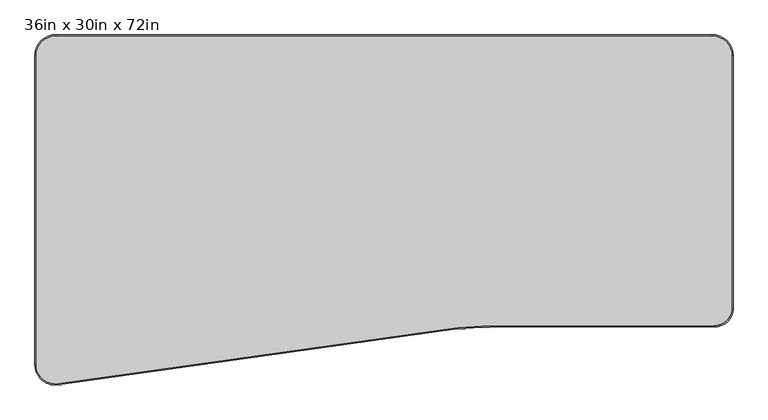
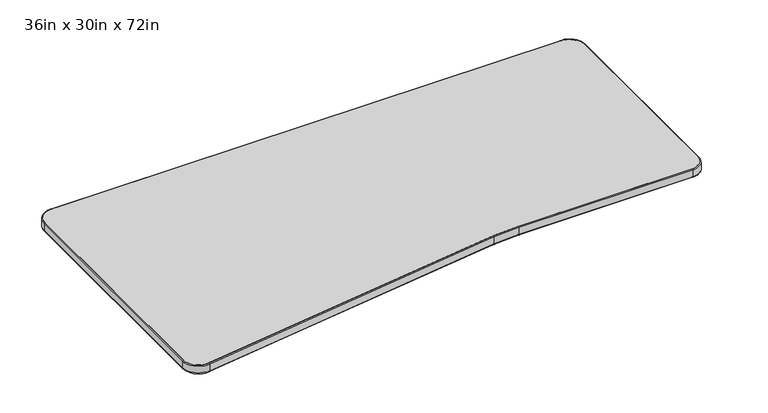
"""IFC4 building model written with IfcOpenShell, lengths in millimetres: furniture geometry, Steelcase - Answer Solution - Universal Table - Transition - Left : 36in x 30in x 72in."""

from ifc_helpers import new_model, si_unit, point, frame, frame_2d, origin, place, context, project, spatial, polyline, circle_curve, ellipse_curve, trimmed, segment, composite_curve, outline, extrude, source, transform, mapped, element, save
from ifc_brep_helpers import plane_surface, cylinder_surface, revolved_surface, advanced_brep


def furniture_36in_x_30in_x_72in_42ab280b(model_context):
    return source(origin(), model_context, "Body", "SolidModel", [
        extrude(outline(composite_curve([segment(polyline([(53.8479244, -3.0479999), (1768.6019516, -3.0479999)]), True, "CONTINUOUS"), segment(trimmed(circle_curve(frame_2d((1768.6019516, -53.8479999)), 50.8), [point((1768.6019516, -3.0479999))], [point((1819.4019516, -53.8479999))], False, "CARTESIAN"), True, "CONTINUOUS"), segment(polyline([(1819.4019516, -53.8479999), (1819.4019516, -711.0676965)]), True, "CONTINUOUS"), segment(trimmed(circle_curve(frame_2d((1771.5176452, -711.0676965)), 47.8843065), [point((1819.4019516, -711.0676965))], [point((1771.5176452, -758.9520029))], False, "CARTESIAN"), True, "CONTINUOUS"), segment(polyline([(1771.5176452, -758.9520029), (1187.1747338, -758.9520029)]), True, "CONTINUOUS"), segment(trimmed(circle_curve(frame_2d((1187.1747338, -1446.1704002)), 687.2183973), [point((1187.1747338, -758.9520029))], [point((1103.6043966, -764.0522841))], True, "CARTESIAN"), True, "CONTINUOUS"), segment(polyline([(1103.6043966, -764.0522841), (60.025543, -910.5787488)]), True, "CONTINUOUS"), segment(trimmed(circle_curve(frame_2d((53.8479244, -860.1557677)), 50.8), [point((60.025543, -910.5787488))], [point((3.0479244, -860.1557677))], False, "CARTESIAN"), True, "CONTINUOUS"), segment(polyline([(3.0479244, -860.1557677), (3.0479244, -53.8479999)]), True, "CONTINUOUS"), segment(trimmed(circle_curve(frame_2d((53.8479244, -53.8479999)), 50.8), [point((3.0479244, -53.8479999))], [point((53.8479244, -3.0479999))], False, "CARTESIAN"), True, "CONTINUOUS")], self_intersect=False)), frame((0.0, 0.0, 668.274), z_axis=(0.0, 0.0, 1.0), x_axis=(1.0, 0.0, 0.0)), (0.0, 0.0, 1.0), 30.0481659),
        advanced_brep(
        [(-7.55e-05, -53.8479999, 671.3219999), (53.8479244, 0.0, 671.3219999), (53.8479244, -3.0479999, 668.274), (3.0479244, -53.8479999, 668.274), (-7.55e-05, -53.8479999, 695.274166), (53.8479244, 0.0, 695.274166), (3.0479244, -53.8479999, 698.3221659), (53.8479244, -3.0479999, 698.3221659), (3.0479244, -860.1557677, 668.274), (-7.55e-05, -860.1557677, 671.3219999), (-7.55e-05, -860.1557677, 695.274166), (3.0479244, -860.1557677, 698.3221659), (60.3962001, -913.6041276, 671.3219999), (60.025543, -910.5787488, 668.274), (60.3962001, -913.6041276, 695.274166), (60.025543, -910.5787488, 698.3221659), (1101.6804802, -764.2879945, 668.274), (1102.1043834, -767.3063732, 671.3219999), (1102.1043834, -767.3063732, 695.274166), (1101.6804802, -764.2879945, 698.3221659), (1189.1130356, -762.0000028, 671.3219999), (1189.1130356, -758.9520029, 668.274), (1189.1130356, -762.0000028, 695.274166), (1189.1130356, -758.9520029, 698.3221659), (1774.9519516, -758.9520029, 668.274), (1774.9519516, -762.0000028, 671.3219999), (1774.9519516, -762.0000028, 695.274166), (1774.9519516, -758.9520029, 698.3221659), (1822.4499516, -714.5020029, 671.3219999), (1819.4019516, -714.5020029, 668.274), (1822.4499516, -714.5020029, 695.274166), (1819.4019516, -714.5020029, 698.3221659), (1819.4019516, -53.8479999, 668.274), (1822.4499516, -53.8479999, 671.3219999), (1822.4499516, -53.8479999, 695.274166), (1819.4019516, -53.8479999, 698.3221659), (1768.6019516, 0.0, 671.3219999), (1768.6019516, -3.0479999, 668.274), (1768.6019516, 0.0, 695.274166), (1768.6019516, -3.0479999, 698.3221659)],
        [
            (0, 1, circle_curve(frame((53.8479244, -53.8479999, 671.3219999), z_axis=(0.0, 0.0, -1.0), x_axis=(0.0, 1.0, 0.0)), 53.8479999)),
            (1, 2, circle_curve(frame((53.8479244, -3.0479999, 671.3219999), z_axis=(-1.0, 0.0, 0.0), x_axis=(0.0, -1.0, 0.0)), 3.0479999)),
            (2, 3, circle_curve(frame((53.8479244, -53.8479999, 668.274), z_axis=(0.0, 0.0, 1.0), x_axis=(0.0, 1.0, 0.0)), 50.8)),
            (3, 0, circle_curve(frame((3.0479244, -53.8479999, 671.3219999), z_axis=(0.0, 1.0, 0.0), x_axis=(1.0, 0.0, 0.0)), 3.0479999)),
            (4, 5, circle_curve(frame((53.8479244, -53.8479999, 695.274166), z_axis=(0.0, 0.0, -1.0), x_axis=(0.0, 1.0, 0.0)), 53.8479999)),
            (5, 1),
            (0, 4),
            (6, 7, circle_curve(frame((53.8479244, -53.8479999, 698.3221659), z_axis=(0.0, 0.0, -1.0), x_axis=(0.0, 1.0, 0.0)), 50.8)),
            (7, 5, circle_curve(frame((53.8479244, -3.0479999, 695.274166), z_axis=(-1.0, 0.0, 0.0), x_axis=(0.0, -1.0, 0.0)), 3.0479999)),
            (4, 6, circle_curve(frame((3.0479244, -53.8479999, 695.274166), z_axis=(0.0, 1.0, 0.0), x_axis=(1.0, 0.0, 0.0)), 3.0479999)),
            (2, 7),
            (6, 3),
            (3, 8),
            (8, 9, circle_curve(frame((3.0479244, -860.1557677, 671.3219999), z_axis=(0.0, 1.0, 0.0), x_axis=(1.0, 0.0, 0.0)), 3.0479999)),
            (9, 0),
            (9, 10),
            (10, 4),
            (10, 11, circle_curve(frame((3.0479244, -860.1557677, 695.274166), z_axis=(0.0, 1.0, 0.0), x_axis=(1.0, 0.0, 0.0)), 3.0479999)),
            (11, 6),
            (11, 8),
            (12, 9, circle_curve(frame((53.8479244, -860.1557677, 671.3219999), z_axis=(0.0, 0.0, -1.0), x_axis=(-1.0, 0.0, 0.0)), 53.8479999)),
            (8, 13, circle_curve(frame((53.8479244, -860.1557677, 668.274), z_axis=(0.0, 0.0, 1.0), x_axis=(-1.0, 0.0, 0.0)), 50.8)),
            (13, 12, circle_curve(frame((60.025543, -910.5787488, 671.3219999), z_axis=(-0.9925783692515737, -0.12160666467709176, 0.0), x_axis=(-0.12160666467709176, 0.9925783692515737, 0.0)), 3.0479999)),
            (14, 10, circle_curve(frame((53.8479244, -860.1557677, 695.274166), z_axis=(0.0, 0.0, -1.0), x_axis=(-1.0, 0.0, 0.0)), 53.8479999)),
            (12, 14),
            (15, 11, circle_curve(frame((53.8479244, -860.1557677, 698.3221659), z_axis=(0.0, 0.0, -1.0), x_axis=(-1.0, 0.0, 0.0)), 50.8)),
            (14, 15, circle_curve(frame((60.025543, -910.5787488, 695.274166), z_axis=(-0.9925783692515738, -0.12160666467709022, 0.0), x_axis=(-0.12160666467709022, 0.9925783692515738, 0.0)), 3.0479999)),
            (15, 13),
            (13, 16),
            (16, 17, circle_curve(frame((1101.6804802, -764.2879945, 671.3219999), z_axis=(-0.9902817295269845, -0.1390758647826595, 0.0), x_axis=(-0.1390758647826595, 0.9902817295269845, 0.0)), 3.0479999)),
            (17, 12),
            (17, 18),
            (18, 14),
            (18, 19, circle_curve(frame((1101.6804802, -764.2879945, 695.274166), z_axis=(-0.9902817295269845, -0.1390758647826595, 0.0), x_axis=(-0.1390758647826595, 0.9902817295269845, 0.0)), 3.0479999)),
            (19, 15),
            (19, 16),
            (20, 17, circle_curve(frame((1189.1130356, -1477.9303219, 671.3219999), z_axis=(0.0, 0.0, 1.0), x_axis=(-0.12160666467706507, 0.9925783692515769, 0.0)), 715.9303191)),
            (16, 21, circle_curve(frame((1189.1130356, -1477.9303219, 668.274), z_axis=(0.0, 0.0, -1.0), x_axis=(-0.12160666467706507, 0.9925783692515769, 0.0)), 718.978319)),
            (21, 20, circle_curve(frame((1189.1130356, -758.9520029, 671.3219999), z_axis=(-1.0, 0.0, 0.0), x_axis=(0.0, 1.0, 0.0)), 3.0479999)),
            (22, 18, circle_curve(frame((1189.1130356, -1477.9303219, 695.274166), z_axis=(0.0, 0.0, 1.0), x_axis=(-0.12160666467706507, 0.9925783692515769, 0.0)), 715.9303191)),
            (20, 22),
            (23, 19, circle_curve(frame((1189.1130356, -1477.9303219, 698.3221659), z_axis=(0.0, 0.0, 1.0), x_axis=(-0.12160666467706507, 0.9925783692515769, 0.0)), 718.978319)),
            (22, 23, circle_curve(frame((1189.1130356, -758.9520029, 695.274166), z_axis=(-1.0, 0.0, 0.0), x_axis=(0.0, 1.0, 0.0)), 3.0479999)),
            (23, 21),
            (21, 24),
            (24, 25, circle_curve(frame((1774.9519516, -758.9520029, 671.3219999), z_axis=(-1.0, 0.0, 0.0), x_axis=(0.0, 1.0, 0.0)), 3.0479999)),
            (25, 20),
            (25, 26),
            (26, 22),
            (26, 27, circle_curve(frame((1774.9519516, -758.9520029, 695.274166), z_axis=(-1.0, 0.0, 0.0), x_axis=(0.0, 1.0, 0.0)), 3.0479999)),
            (27, 23),
            (27, 24),
            (28, 25, circle_curve(frame((1774.9519516, -714.5020029, 671.3219999), z_axis=(0.0, 0.0, -1.0), x_axis=(0.0, -1.0, 0.0)), 47.4979999)),
            (24, 29, circle_curve(frame((1774.9519516, -714.5020029, 668.274), z_axis=(0.0, 0.0, 1.0), x_axis=(0.0, -1.0, 0.0)), 44.45)),
            (29, 28, circle_curve(frame((1819.4019516, -714.5020029, 671.3219999), z_axis=(0.0, -1.0, 0.0), x_axis=(-1.0, 0.0, 0.0)), 3.0479999)),
            (30, 26, circle_curve(frame((1774.9519516, -714.5020029, 695.274166), z_axis=(0.0, 0.0, -1.0), x_axis=(0.0, -1.0, 0.0)), 47.4979999)),
            (28, 30),
            (31, 27, circle_curve(frame((1774.9519516, -714.5020029, 698.3221659), z_axis=(0.0, 0.0, -1.0), x_axis=(0.0, -1.0, 0.0)), 44.45)),
            (30, 31, circle_curve(frame((1819.4019516, -714.5020029, 695.274166), z_axis=(0.0, -1.0, 0.0), x_axis=(-1.0, 0.0, 0.0)), 3.0479999)),
            (31, 29),
            (29, 32),
            (32, 33, circle_curve(frame((1819.4019516, -53.8479999, 671.3219999), z_axis=(0.0, -1.0, 0.0), x_axis=(-1.0, 0.0, 0.0)), 3.0479999)),
            (33, 28),
            (33, 34),
            (34, 30),
            (34, 35, circle_curve(frame((1819.4019516, -53.8479999, 695.274166), z_axis=(0.0, -1.0, 0.0), x_axis=(-1.0, 0.0, 0.0)), 3.0479999)),
            (35, 31),
            (35, 32),
            (36, 33, circle_curve(frame((1768.6019516, -53.8479999, 671.3219999), z_axis=(0.0, 0.0, -1.0), x_axis=(1.0, 0.0, 0.0)), 53.8479999)),
            (32, 37, circle_curve(frame((1768.6019516, -53.8479999, 668.274), z_axis=(0.0, 0.0, 1.0), x_axis=(1.0, 0.0, 0.0)), 50.8)),
            (37, 36, circle_curve(frame((1768.6019516, -3.0479999, 671.3219999), z_axis=(1.0, 0.0, 0.0), x_axis=(0.0, -1.0, 0.0)), 3.0479999)),
            (38, 34, circle_curve(frame((1768.6019516, -53.8479999, 695.274166), z_axis=(0.0, 0.0, -1.0), x_axis=(1.0, 0.0, 0.0)), 53.8479999)),
            (36, 38),
            (39, 35, circle_curve(frame((1768.6019516, -53.8479999, 698.3221659), z_axis=(0.0, 0.0, -1.0), x_axis=(1.0, 0.0, 0.0)), 50.8)),
            (38, 39, circle_curve(frame((1768.6019516, -3.0479999, 695.274166), z_axis=(1.0, 0.0, 0.0), x_axis=(0.0, -1.0, 0.0)), 3.0479999)),
            (39, 37),
            (37, 2),
            (1, 36),
            (5, 38),
            (7, 39),
        ],
        [
            revolved_surface(trimmed(ellipse_curve(frame((53.8479244, -3.0479999, 671.3219999), z_axis=(1.0, 0.0, 0.0), x_axis=(0.0, -1.0, 0.0)), 3.0479999, 3.0479999), [point((53.8479244, -3.0479999, 668.274))], [point((53.8479244, 0.0, 671.3219999))], True, "CARTESIAN"), (53.8479244, -53.8479999, 0.0), (0.0, 0.0, 1.0)),
            cylinder_surface(frame((53.8479244, -53.8479999, 0.0), z_axis=(0.0, 0.0, 1.0), x_axis=(0.0, 1.0, 0.0)), 53.8479999),
            revolved_surface(trimmed(ellipse_curve(frame((53.8479244, -3.0479999, 695.274166), z_axis=(1.0, 0.0, 0.0), x_axis=(0.0, -1.0, 0.0)), 3.0479999, 3.0479999), [point((53.8479244, 0.0, 695.274166))], [point((53.8479244, -3.0479999, 698.3221659))], True, "CARTESIAN"), (53.8479244, -53.8479999, 0.0), (0.0, 0.0, 1.0)),
            revolved_surface(polyline([(53.8479244, -3.0479999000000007, 698.3221659), (53.8479244, -3.0479999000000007, 668.274)]), (53.8479244, -53.8479999, 0.0), (0.0, 0.0, 1.0)),
            cylinder_surface(frame((3.0479244, -53.8479999, 671.3219999), z_axis=(0.0, 1.0, 0.0), x_axis=(1.0, 0.0, 0.0)), 3.0479999),
            plane_surface(frame((-7.55e-05, -53.8479999, 671.3219999), z_axis=(-1.0, 0.0, 0.0), x_axis=(0.0, -1.0, 0.0))),
            cylinder_surface(frame((3.0479244, -53.8479999, 695.274166), z_axis=(0.0, 1.0, 0.0), x_axis=(1.0, 0.0, 0.0)), 3.0479999),
            plane_surface(frame((3.0479244, -53.8479999, 698.3221659), z_axis=(1.0, 0.0, 0.0), x_axis=(0.0, -1.0, 0.0))),
            revolved_surface(trimmed(ellipse_curve(frame((3.0479244, -860.1557677, 671.3219999), z_axis=(0.0, 1.0, 0.0), x_axis=(1.0, 0.0, 0.0)), 3.0479999, 3.0479999), [point((3.0479244, -860.1557677, 668.274))], [point((-7.55e-05, -860.1557677, 671.3219999))], True, "CARTESIAN"), (53.8479244, -860.1557677, 0.0), (0.0, 0.0, 1.0)),
            cylinder_surface(frame((53.8479244, -860.1557677, 0.0), z_axis=(0.0, 0.0, 1.0), x_axis=(-1.0, 0.0, 0.0)), 53.8479999),
            revolved_surface(trimmed(ellipse_curve(frame((3.0479244, -860.1557677, 695.274166), z_axis=(0.0, 1.0, 0.0), x_axis=(1.0, 0.0, 0.0)), 3.0479999, 3.0479999), [point((-7.55e-05, -860.1557677, 695.274166))], [point((3.0479244, -860.1557677, 698.3221659))], True, "CARTESIAN"), (53.8479244, -860.1557677, 0.0), (0.0, 0.0, 1.0)),
            revolved_surface(polyline([(3.0479243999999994, -860.1557677, 698.3221659), (3.0479243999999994, -860.1557677, 668.274)]), (53.8479244, -860.1557677, 0.0), (0.0, 0.0, 1.0)),
            cylinder_surface(frame((60.025543, -910.5787488, 671.3219999), z_axis=(-0.9902817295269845, -0.1390758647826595, 0.0), x_axis=(-0.1390758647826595, 0.9902817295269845, 0.0)), 3.0479999),
            plane_surface(frame((60.3962576, -913.6045973, 671.3219999), z_axis=(0.13907586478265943, -0.9902817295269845, 0.0), x_axis=(0.9902817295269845, 0.13907586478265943, 0.0))),
            cylinder_surface(frame((60.025543, -910.5787488, 695.274166), z_axis=(-0.9902817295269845, -0.1390758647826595, 0.0), x_axis=(-0.1390758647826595, 0.9902817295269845, 0.0)), 3.0479999),
            plane_surface(frame((60.025543, -910.5787488, 698.3221659), z_axis=(-0.13907586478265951, 0.9902817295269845, 0.0), x_axis=(0.9902817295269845, 0.13907586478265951, 0.0))),
            revolved_surface(trimmed(ellipse_curve(frame((1101.6804802, -764.2879945, 671.3219999), z_axis=(-0.9925783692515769, -0.12160666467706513, 0.0), x_axis=(-0.12160666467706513, 0.9925783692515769, 0.0)), 3.0479999, 3.0479999), [point((1101.6804802, -764.2879945, 668.274))], [point((1102.0511373, -767.3133733, 671.3219999))], True, "CARTESIAN"), (1189.1130356, -1477.9303219, 0.0), (0.0, 0.0, -1.0)),
            revolved_surface(polyline([(1102.0511373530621, -767.313373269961, 671.3219999), (1102.0511373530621, -767.313373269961, 695.274166)]), (1189.1130356, -1477.9303219, 0.0), (0.0, 0.0, -1.0)),
            revolved_surface(trimmed(ellipse_curve(frame((1101.6804802, -764.2879945, 695.274166), z_axis=(-0.9925783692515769, -0.12160666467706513, 0.0), x_axis=(-0.12160666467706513, 0.9925783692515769, 0.0)), 3.0479999, 3.0479999), [point((1102.0511373, -767.3133733, 695.274166))], [point((1101.6804802, -764.2879945, 698.3221659))], True, "CARTESIAN"), (1189.1130356, -1477.9303219, 0.0), (0.0, 0.0, -1.0)),
            cylinder_surface(frame((1189.1130356, -1477.9303219, 0.0), z_axis=(0.0, 0.0, -1.0), x_axis=(-0.12160666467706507, 0.9925783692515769, 0.0)), 718.978319),
            cylinder_surface(frame((1189.1130356, -758.9520029, 671.3219999), z_axis=(-1.0, 0.0, 0.0), x_axis=(0.0, 1.0, 0.0)), 3.0479999),
            plane_surface(frame((1189.1130356, -762.0000028, 671.3219999), z_axis=(0.0, -1.0, 0.0), x_axis=(1.0, 0.0, 0.0))),
            cylinder_surface(frame((1189.1130356, -758.9520029, 695.274166), z_axis=(-1.0, 0.0, 0.0), x_axis=(0.0, 1.0, 0.0)), 3.0479999),
            plane_surface(frame((1189.1130356, -758.9520029, 698.3221659), z_axis=(0.0, 1.0, 0.0), x_axis=(1.0, 0.0, 0.0))),
            revolved_surface(trimmed(ellipse_curve(frame((1774.9519516, -758.9520029, 671.3219999), z_axis=(-1.0, 0.0, 0.0), x_axis=(0.0, 1.0, 0.0)), 3.0479999, 3.0479999), [point((1774.9519516, -758.9520029, 668.274))], [point((1774.9519516, -762.0000028, 671.3219999))], True, "CARTESIAN"), (1774.9519516, -714.5020029, 0.0), (0.0, 0.0, 1.0)),
            cylinder_surface(frame((1774.9519516, -714.5020029, 0.0), z_axis=(0.0, 0.0, 1.0), x_axis=(0.0, -1.0, 0.0)), 47.4979999),
            revolved_surface(trimmed(ellipse_curve(frame((1774.9519516, -758.9520029, 695.274166), z_axis=(-1.0, 0.0, 0.0), x_axis=(0.0, 1.0, 0.0)), 3.0479999, 3.0479999), [point((1774.9519516, -762.0000028, 695.274166))], [point((1774.9519516, -758.9520029, 698.3221659))], True, "CARTESIAN"), (1774.9519516, -714.5020029, 0.0), (0.0, 0.0, 1.0)),
            revolved_surface(polyline([(1774.9519516, -758.9520029, 698.3221659), (1774.9519516, -758.9520029, 668.274)]), (1774.9519516, -714.5020029, 0.0), (0.0, 0.0, 1.0)),
            cylinder_surface(frame((1819.4019516, -714.5020029, 671.3219999), z_axis=(0.0, -1.0, 0.0), x_axis=(-1.0, 0.0, 0.0)), 3.0479999),
            plane_surface(frame((1822.4499516, -714.5020029, 671.3219999), z_axis=(1.0, 0.0, 0.0), x_axis=(0.0, 1.0, 0.0))),
            cylinder_surface(frame((1819.4019516, -714.5020029, 695.274166), z_axis=(0.0, -1.0, 0.0), x_axis=(-1.0, 0.0, 0.0)), 3.0479999),
            plane_surface(frame((1819.4019516, -714.5020029, 698.3221659), z_axis=(-1.0, 0.0, 0.0), x_axis=(0.0, 1.0, 0.0))),
            revolved_surface(trimmed(ellipse_curve(frame((1819.4019516, -53.8479999, 671.3219999), z_axis=(0.0, -1.0, 0.0), x_axis=(-1.0, 0.0, 0.0)), 3.0479999, 3.0479999), [point((1819.4019516, -53.8479999, 668.274))], [point((1822.4499516, -53.8479999, 671.3219999))], True, "CARTESIAN"), (1768.6019516, -53.8479999, 0.0), (0.0, 0.0, 1.0)),
            cylinder_surface(frame((1768.6019516, -53.8479999, 0.0), z_axis=(0.0, 0.0, 1.0), x_axis=(1.0, 0.0, 0.0)), 53.8479999),
            revolved_surface(trimmed(ellipse_curve(frame((1819.4019516, -53.8479999, 695.274166), z_axis=(0.0, -1.0, 0.0), x_axis=(-1.0, 0.0, 0.0)), 3.0479999, 3.0479999), [point((1822.4499516, -53.8479999, 695.274166))], [point((1819.4019516, -53.8479999, 698.3221659))], True, "CARTESIAN"), (1768.6019516, -53.8479999, 0.0), (0.0, 0.0, 1.0)),
            revolved_surface(polyline([(1819.4019515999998, -53.8479999, 698.3221659), (1819.4019515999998, -53.8479999, 668.274)]), (1768.6019516, -53.8479999, 0.0), (0.0, 0.0, 1.0)),
            cylinder_surface(frame((1768.6019516, -3.0479999, 671.3219999), z_axis=(1.0, 0.0, 0.0), x_axis=(0.0, -1.0, 0.0)), 3.0479999),
            plane_surface(frame((1768.6019516, 0.0, 671.3219999), z_axis=(0.0, 1.0, 0.0), x_axis=(-1.0, 0.0, 0.0))),
            cylinder_surface(frame((1768.6019516, -3.0479999, 695.274166), z_axis=(1.0, 0.0, 0.0), x_axis=(0.0, -1.0, 0.0)), 3.0479999),
            plane_surface(frame((1768.6019516, -3.0479999, 698.3221659), z_axis=(0.0, -1.0, 0.0), x_axis=(-1.0, 0.0, 0.0))),
        ],
        [
            (0, [[1, 2, 3, 4]]),
            (1, [[5, 6, -1, 7]]),
            (2, [[8, 9, -5, 10]]),
            (3, [[-3, 11, -8, 12]]),
            (4, [[-4, 13, 14, 15]]),
            (5, [[-7, -15, 16, 17]]),
            (6, [[-10, -17, 18, 19]]),
            (7, [[-12, -19, 20, -13]]),
            (8, [[21, -14, 22, 23]]),
            (9, [[24, -16, -21, 25]]),
            (10, [[26, -18, -24, 27]]),
            (11, [[-22, -20, -26, 28]]),
            (12, [[-23, 29, 30, 31]]),
            (13, [[-25, -31, 32, 33]]),
            (14, [[-27, -33, 34, 35]]),
            (15, [[-28, -35, 36, -29]]),
            (16, [[37, -30, 38, 39]]),
            (17, [[40, -32, -37, 41]]),
            (18, [[42, -34, -40, 43]]),
            (19, [[-38, -36, -42, 44]]),
            (20, [[-39, 45, 46, 47]]),
            (21, [[-41, -47, 48, 49]]),
            (22, [[-43, -49, 50, 51]]),
            (23, [[-44, -51, 52, -45]]),
            (24, [[53, -46, 54, 55]]),
            (25, [[56, -48, -53, 57]]),
            (26, [[58, -50, -56, 59]]),
            (27, [[-54, -52, -58, 60]]),
            (28, [[-55, 61, 62, 63]]),
            (29, [[-57, -63, 64, 65]]),
            (30, [[-59, -65, 66, 67]]),
            (31, [[-60, -67, 68, -61]]),
            (32, [[69, -62, 70, 71]]),
            (33, [[72, -64, -69, 73]]),
            (34, [[74, -66, -72, 75]]),
            (35, [[-70, -68, -74, 76]]),
            (36, [[-71, 77, -2, 78]]),
            (37, [[-73, -78, -6, 79]]),
            (38, [[-75, -79, -9, 80]]),
            (39, [[-76, -80, -11, -77]]),
        ],
    ),
    ])


if __name__ == "__main__":
    model = new_model("IFC4")
    model_context = context("Model", 3, world=origin())
    ifc_project = project(units=[si_unit("LENGTHUNIT", "METRE", prefix="MILLI")], contexts=[model_context])
    site = spatial("IfcSite", under=ifc_project)
    building = spatial("IfcBuilding", under=site)
    placement = place(None, origin())
    furniture_36in_x_30in_x_72in_shape = furniture_36in_x_30in_x_72in_42ab280b(model_context)
    element("IfcFurniture", 1, ObjectType="Steelcase - Answer Solution - Universal Table - Transition - Left : 36in x 30in x 72in", at=placement, inside=building, context=model_context, shape_type="MappedRepresentation", body=[
        mapped(furniture_36in_x_30in_x_72in_shape, transform((0.0, 0.0, 0.0), x_axis=(1.0, 0.0, 0.0), y_axis=(0.0, 1.0, 0.0), z_axis=(0.0, 0.0, 1.0))),
    ])
    save(model, "model.ifc")
